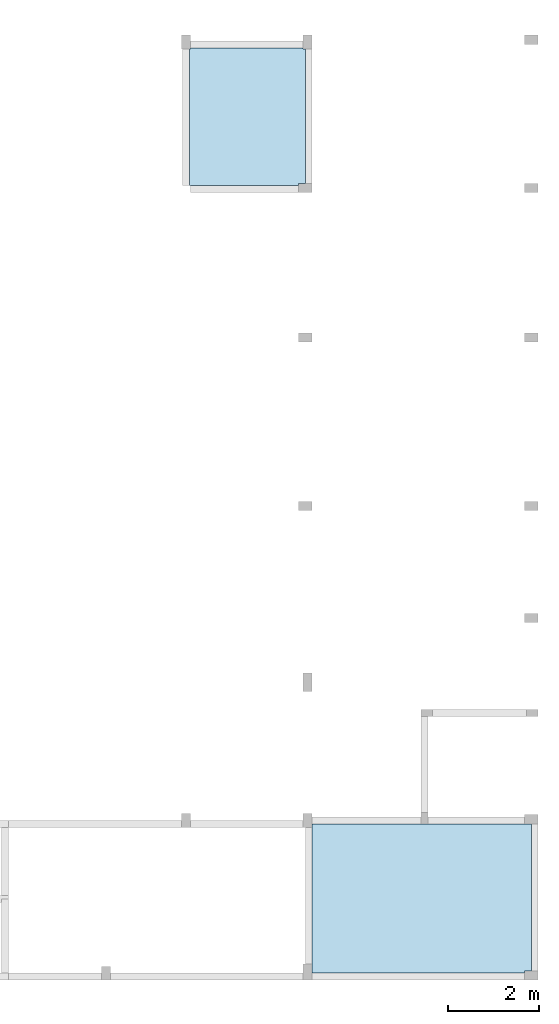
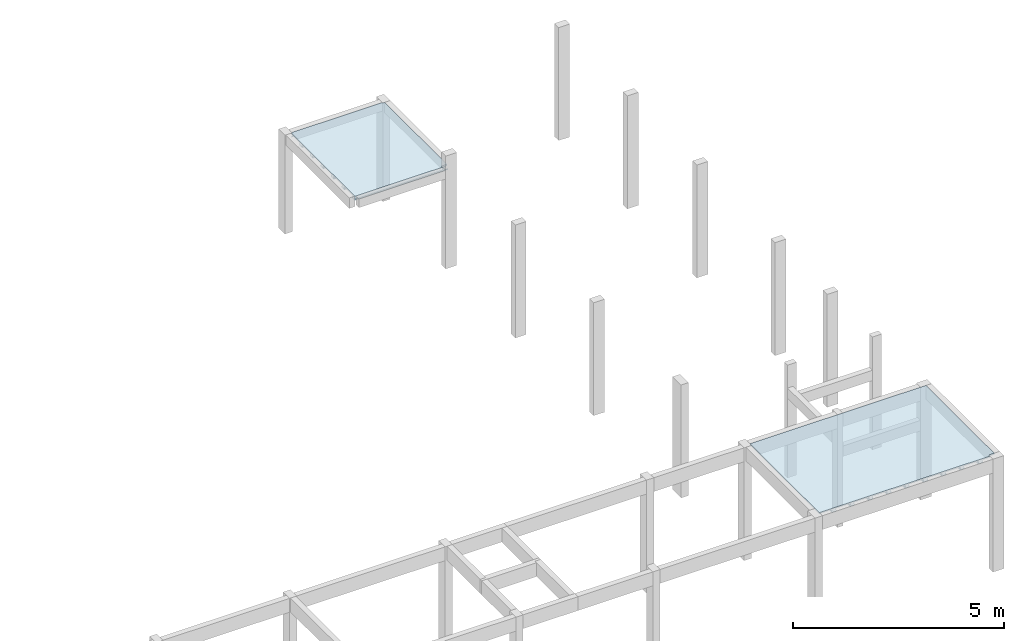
# One storey, part 6 of 6: 2 slabs.
"""IFC4 building model written with IfcOpenShell, lengths in centimetres."""

from ifc_helpers import new_model, si_unit, derived_unit, frame, origin_with_axes, place, context, project, spatial, polyline, outline, extrude, faceted_brep, material, element, save


model = new_model("IFC4")

# Units and contexts
model_context = context("Model", 3, precision=1e-05, world=origin_with_axes(), identifier="Body")
ifc_project = project(units=[si_unit("LENGTHUNIT", "METRE", prefix="CENTI"), si_unit("VOLUMEUNIT", "CUBIC_METRE"), si_unit("AREAUNIT", "SQUARE_METRE"), si_unit("POWERUNIT", "WATT"), si_unit("LUMINOUSFLUXUNIT", "LUMEN"), si_unit("ELECTRICCURRENTUNIT", "AMPERE"), si_unit("PRESSUREUNIT", "PASCAL", prefix="KILO"), si_unit("MASSUNIT", "GRAM", prefix="KILO"), si_unit("PLANEANGLEUNIT", "RADIAN"), derived_unit("VOLUMETRICFLOWRATEUNIT", [(si_unit("LENGTHUNIT", "METRE"), 3), (si_unit("TIMEUNIT", "SECOND"), -1)])], contexts=[model_context])

# Site, building, storey
site_placement = place(None, origin_with_axes())
site = spatial("IfcSite", under=ifc_project, at=site_placement)
building_placement = place(site_placement, frame((0.0, 0.0, -295.0)))
building = spatial("IfcBuilding", under=site, at=building_placement)
placement_1 = place(building_placement, origin_with_axes())
placement_2 = place(placement_1, frame((0.0, 0.0, 101.0), z_axis=(0.0, 0.0, 1.0), x_axis=(1.0, 0.0, 0.0)))
placement_3 = place(placement_2, frame((0.0, 0.0, 204.0), z_axis=(0.0, 0.0, 1.0), x_axis=(1.0, 0.0, 0.0)))
placement_4 = place(placement_3, frame((0.0, 0.0, 292.0), z_axis=(0.0, 0.0, 1.0), x_axis=(1.0, 0.0, 0.0)))
placement_5 = place(placement_4, frame((0.0, 0.0, 302.0), z_axis=(0.0, 0.0, 1.0), x_axis=(1.0, 0.0, 0.0)))
storey_placement = place(placement_5, frame((0.0, 0.0, 326.0), z_axis=(0.0, 0.0, 1.0), x_axis=(1.0, 0.0, 0.0)))
storey = spatial("IfcBuildingStorey", under=building, at=storey_placement, Name="COB CX DAGUA", CompositionType="ELEMENT", Elevation=930.0)

# Slabs
ifc_material = material(Name="Concreto")
slab_1_placement = place(storey_placement, frame((3378.4799981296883, -5283.8175, -41.0), z_axis=(0.0, 0.0, 1.0), x_axis=(1.0, 0.0, 0.0)))
element("IfcSlab", 1, at=slab_1_placement, inside=storey, material=ifc_material, Name="L304", PredefinedType="FLOOR", context=model_context, shape_type="SolidModel", body=[
    extrude(outline(polyline([(112.23, -146.104), (127.25, -146.104), (127.249, 149.034), (122.25, 149.034), (122.25, 151.035), (-124.749, 151.034), (-124.749, 149.034), (-127.25, 149.034), (-127.249, -151.034), (112.229, -151.034), (112.23, -146.104), (112.23, -146.104)])), frame((0.0, 0.2325, -4.0), z_axis=(0.0, 0.0, 1.0), x_axis=(1.0, 0.0, 0.0)), (0.0, 0.0, 1.0), 4.0),
    faceted_brep([(-127.24949812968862, -139.7675, -12.0), (127.24950187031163, -139.7675, -12.0), (112.22950187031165, -149.7675, -12.0), (-127.24949812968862, -149.7675, -12.0), (-127.24949812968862, -149.7675, -4.0), (112.22950187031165, -149.7675, -4.0), (127.24950187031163, -139.7675, -4.0), (-127.24949812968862, -139.7675, -4.0)], [[[0, 1, 2, 3]], [[4, 5, 6, 7]], [[4, 3, 5]], [[3, 2, 5]], [[5, 2, 6]], [[2, 1, 6]], [[6, 1, 7]], [[1, 0, 7]], [[7, 0, 4]], [[0, 3, 4]]]),
    faceted_brep([(-127.24949812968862, -138.2675, -12.0), (127.24950187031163, -138.2675, -12.0), (127.24950187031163, -139.7675, -12.0), (-127.24949812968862, -139.7675, -12.0), (-127.24949812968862, -139.7675, -9.0), (127.24950187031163, -139.7675, -9.0), (127.24950187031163, -138.2675, -9.0), (-127.24949812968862, -138.2675, -9.0)], [[[0, 1, 2, 3]], [[4, 5, 6, 7]], [[4, 3, 5]], [[3, 2, 5]], [[5, 2, 6]], [[2, 1, 6]], [[6, 1, 7]], [[1, 0, 7]], [[7, 0, 4]], [[0, 3, 4]]]),
    faceted_brep([(-127.24949812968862, -149.7675, -12.0), (127.24999812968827, -149.7675, -12.0), (127.24999812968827, -151.2675, -12.0), (-127.24949812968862, -151.2675, -12.0), (-127.24949812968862, -151.2675, -9.0), (127.24999812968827, -151.2675, -9.0), (127.24999812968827, -149.7675, -9.0), (-127.24949812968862, -149.7675, -9.0)], [[[0, 1, 2, 3]], [[4, 5, 6, 7]], [[4, 3, 5]], [[3, 2, 5]], [[5, 2, 6]], [[2, 1, 6]], [[6, 1, 7]], [[1, 0, 7]], [[7, 0, 4]], [[0, 3, 4]]]),
    faceted_brep([(-127.24949812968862, -89.7675, -12.0), (127.24950187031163, -89.7675, -12.0), (127.24950187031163, -99.7675, -12.0), (-127.24949812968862, -99.7675, -12.0), (-127.24949812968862, -99.7675, -4.0), (127.24950187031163, -99.7675, -4.0), (127.24950187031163, -89.7675, -4.0), (-127.24949812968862, -89.7675, -4.0)], [[[0, 1, 2, 3]], [[4, 5, 6, 7]], [[4, 3, 5]], [[3, 2, 5]], [[5, 2, 6]], [[2, 1, 6]], [[6, 1, 7]], [[1, 0, 7]], [[7, 0, 4]], [[0, 3, 4]]]),
    faceted_brep([(-127.24949812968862, -88.2675, -12.0), (127.24950187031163, -88.2675, -12.0), (127.24950187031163, -89.7675, -12.0), (-127.24949812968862, -89.7675, -12.0), (-127.24949812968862, -89.7675, -9.0), (127.24950187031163, -89.7675, -9.0), (127.24950187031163, -88.2675, -9.0), (-127.24949812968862, -88.2675, -9.0)], [[[0, 1, 2, 3]], [[4, 5, 6, 7]], [[4, 3, 5]], [[3, 2, 5]], [[5, 2, 6]], [[2, 1, 6]], [[6, 1, 7]], [[1, 0, 7]], [[7, 0, 4]], [[0, 3, 4]]]),
    faceted_brep([(-127.24949812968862, -99.7675, -12.0), (127.24950187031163, -99.7675, -12.0), (127.24950187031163, -101.2675, -12.0), (-127.24949812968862, -101.2675, -12.0), (-127.24949812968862, -101.2675, -9.0), (127.24950187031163, -101.2675, -9.0), (127.24950187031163, -99.7675, -9.0), (-127.24949812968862, -99.7675, -9.0)], [[[0, 1, 2, 3]], [[4, 5, 6, 7]], [[4, 3, 5]], [[3, 2, 5]], [[5, 2, 6]], [[2, 1, 6]], [[6, 1, 7]], [[1, 0, 7]], [[7, 0, 4]], [[0, 3, 4]]]),
    faceted_brep([(-127.24949812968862, -39.7675, -12.0), (127.24950187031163, -39.7675, -12.0), (127.24950187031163, -49.7675, -12.0), (-127.24949812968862, -49.7675, -12.0), (-127.24949812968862, -49.7675, -4.0), (127.24950187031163, -49.7675, -4.0), (127.24950187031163, -39.7675, -4.0), (-127.24949812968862, -39.7675, -4.0)], [[[0, 1, 2, 3]], [[4, 5, 6, 7]], [[4, 3, 5]], [[3, 2, 5]], [[5, 2, 6]], [[2, 1, 6]], [[6, 1, 7]], [[1, 0, 7]], [[7, 0, 4]], [[0, 3, 4]]]),
    faceted_brep([(-127.24949812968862, -38.2675, -12.0), (127.24950187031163, -38.2675, -12.0), (127.24950187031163, -39.7675, -12.0), (-127.24949812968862, -39.7675, -12.0), (-127.24949812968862, -39.7675, -9.0), (127.24950187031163, -39.7675, -9.0), (127.24950187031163, -38.2675, -9.0), (-127.24949812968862, -38.2675, -9.0)], [[[0, 1, 2, 3]], [[4, 5, 6, 7]], [[4, 3, 5]], [[3, 2, 5]], [[5, 2, 6]], [[2, 1, 6]], [[6, 1, 7]], [[1, 0, 7]], [[7, 0, 4]], [[0, 3, 4]]]),
    faceted_brep([(-127.24949812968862, -49.7675, -12.0), (127.24950187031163, -49.7675, -12.0), (127.24950187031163, -51.2675, -12.0), (-127.24949812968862, -51.2675, -12.0), (-127.24949812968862, -51.2675, -9.0), (127.24950187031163, -51.2675, -9.0), (127.24950187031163, -49.7675, -9.0), (-127.24949812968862, -49.7675, -9.0)], [[[0, 1, 2, 3]], [[4, 5, 6, 7]], [[4, 3, 5]], [[3, 2, 5]], [[5, 2, 6]], [[2, 1, 6]], [[6, 1, 7]], [[1, 0, 7]], [[7, 0, 4]], [[0, 3, 4]]]),
    faceted_brep([(-127.24949812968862, 10.2325, -12.0), (127.24950187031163, 10.2325, -12.0), (127.24950187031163, 0.2325, -12.0), (-127.24949812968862, 0.2325, -12.0), (-127.24949812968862, 0.2325, -4.0), (127.24950187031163, 0.2325, -4.0), (127.24950187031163, 10.2325, -4.0), (-127.24949812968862, 10.2325, -4.0)], [[[0, 1, 2, 3]], [[4, 5, 6, 7]], [[4, 3, 5]], [[3, 2, 5]], [[5, 2, 6]], [[2, 1, 6]], [[6, 1, 7]], [[1, 0, 7]], [[7, 0, 4]], [[0, 3, 4]]]),
    faceted_brep([(-127.24949812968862, 11.7325, -12.0), (127.24950187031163, 11.7325, -12.0), (127.24950187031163, 10.2325, -12.0), (-127.24949812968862, 10.2325, -12.0), (-127.24949812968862, 10.2325, -9.0), (127.24950187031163, 10.2325, -9.0), (127.24950187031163, 11.7325, -9.0), (-127.24949812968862, 11.7325, -9.0)], [[[0, 1, 2, 3]], [[4, 5, 6, 7]], [[4, 3, 5]], [[3, 2, 5]], [[5, 2, 6]], [[2, 1, 6]], [[6, 1, 7]], [[1, 0, 7]], [[7, 0, 4]], [[0, 3, 4]]]),
    faceted_brep([(-127.24949812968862, 0.2325, -12.0), (127.24950187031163, 0.2325, -12.0), (127.24950187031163, -1.2675, -12.0), (-127.24949812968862, -1.2675, -12.0), (-127.24949812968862, -1.2675, -9.0), (127.24950187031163, -1.2675, -9.0), (127.24950187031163, 0.2325, -9.0), (-127.24949812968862, 0.2325, -9.0)], [[[0, 1, 2, 3]], [[4, 5, 6, 7]], [[4, 3, 5]], [[3, 2, 5]], [[5, 2, 6]], [[2, 1, 6]], [[6, 1, 7]], [[1, 0, 7]], [[7, 0, 4]], [[0, 3, 4]]]),
    faceted_brep([(-127.24949812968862, 60.2325, -12.0), (127.24950187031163, 60.2325, -12.0), (127.24950187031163, 50.2325, -12.0), (-127.24949812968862, 50.2325, -12.0), (-127.24949812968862, 50.2325, -4.0), (127.24950187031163, 50.2325, -4.0), (127.24950187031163, 60.2325, -4.0), (-127.24949812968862, 60.2325, -4.0)], [[[0, 1, 2, 3]], [[4, 5, 6, 7]], [[4, 3, 5]], [[3, 2, 5]], [[5, 2, 6]], [[2, 1, 6]], [[6, 1, 7]], [[1, 0, 7]], [[7, 0, 4]], [[0, 3, 4]]]),
    faceted_brep([(-127.24949812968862, 61.7325, -12.0), (127.24950187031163, 61.7325, -12.0), (127.24950187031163, 60.2325, -12.0), (-127.24949812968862, 60.2325, -12.0), (-127.24949812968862, 60.2325, -9.0), (127.24950187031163, 60.2325, -9.0), (127.24950187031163, 61.7325, -9.0), (-127.24949812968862, 61.7325, -9.0)], [[[0, 1, 2, 3]], [[4, 5, 6, 7]], [[4, 3, 5]], [[3, 2, 5]], [[5, 2, 6]], [[2, 1, 6]], [[6, 1, 7]], [[1, 0, 7]], [[7, 0, 4]], [[0, 3, 4]]]),
    faceted_brep([(-127.24949812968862, 50.2325, -12.0), (127.24950187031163, 50.2325, -12.0), (127.24950187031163, 48.7325, -12.0), (-127.24949812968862, 48.7325, -12.0), (-127.24949812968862, 48.7325, -9.0), (127.24950187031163, 48.7325, -9.0), (127.24950187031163, 50.2325, -9.0), (-127.24949812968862, 50.2325, -9.0)], [[[0, 1, 2, 3]], [[4, 5, 6, 7]], [[4, 3, 5]], [[3, 2, 5]], [[5, 2, 6]], [[2, 1, 6]], [[6, 1, 7]], [[1, 0, 7]], [[7, 0, 4]], [[0, 3, 4]]]),
    faceted_brep([(-127.24949812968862, 110.2325, -12.0), (127.24950187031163, 110.2325, -12.0), (127.24950187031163, 100.2325, -12.0), (-127.24949812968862, 100.2325, -12.0), (-127.24949812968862, 100.2325, -4.0), (127.24950187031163, 100.2325, -4.0), (127.24950187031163, 110.2325, -4.0), (-127.24949812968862, 110.2325, -4.0)], [[[0, 1, 2, 3]], [[4, 5, 6, 7]], [[4, 3, 5]], [[3, 2, 5]], [[5, 2, 6]], [[2, 1, 6]], [[6, 1, 7]], [[1, 0, 7]], [[7, 0, 4]], [[0, 3, 4]]]),
    faceted_brep([(-127.24949812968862, 111.7325, -12.0), (127.24950187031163, 111.7325, -12.0), (127.24950187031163, 110.2325, -12.0), (-127.24949812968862, 110.2325, -12.0), (-127.24949812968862, 110.2325, -9.0), (127.24950187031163, 110.2325, -9.0), (127.24950187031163, 111.7325, -9.0), (-127.24949812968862, 111.7325, -9.0)], [[[0, 1, 2, 3]], [[4, 5, 6, 7]], [[4, 3, 5]], [[3, 2, 5]], [[5, 2, 6]], [[2, 1, 6]], [[6, 1, 7]], [[1, 0, 7]], [[7, 0, 4]], [[0, 3, 4]]]),
    faceted_brep([(-127.24949812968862, 100.2325, -12.0), (127.24950187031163, 100.2325, -12.0), (127.24950187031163, 98.7325, -12.0), (-127.24949812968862, 98.7325, -12.0), (-127.24949812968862, 98.7325, -9.0), (127.24950187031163, 98.7325, -9.0), (127.24950187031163, 100.2325, -9.0), (-127.24949812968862, 100.2325, -9.0)], [[[0, 1, 2, 3]], [[4, 5, 6, 7]], [[4, 3, 5]], [[3, 2, 5]], [[5, 2, 6]], [[2, 1, 6]], [[6, 1, 7]], [[1, 0, 7]], [[7, 0, 4]], [[0, 3, 4]]]),
    faceted_brep([(-124.74899812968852, 151.267, -12.0), (122.25000187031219, 151.267, -12.0), (122.25000187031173, 150.2325, -12.0), (-124.74899812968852, 150.2325, -12.0), (-124.74899812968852, 150.2325, -4.0), (122.25000187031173, 150.2325, -4.0), (122.25000187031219, 151.267, -4.0), (-124.74899812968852, 151.267, -4.0)], [[[0, 1, 2, 3]], [[4, 5, 6, 7]], [[4, 3, 5]], [[3, 2, 5]], [[5, 2, 6]], [[2, 1, 6]], [[6, 1, 7]], [[1, 0, 7]], [[7, 0, 4]], [[0, 3, 4]]]),
    faceted_brep([(-124.74899812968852, 150.2325, -12.0), (122.25000187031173, 150.2325, -12.0), (127.24950187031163, 148.7325, -12.0), (-127.24949812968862, 148.7325, -12.0), (-127.24949812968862, 148.7325, -9.0), (127.24950187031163, 148.7325, -9.0), (122.25000187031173, 150.2325, -9.0), (-124.74899812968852, 150.2325, -9.0)], [[[0, 1, 2, 3]], [[4, 5, 6, 7]], [[4, 3, 5]], [[3, 2, 5]], [[5, 2, 6]], [[2, 1, 6]], [[6, 1, 7]], [[1, 0, 7]], [[7, 0, 4]], [[0, 3, 4]]]),
])
slab_2_placement = place(storey_placement, frame((3761.245, -7000.2995, 0.0), z_axis=(0.0, 0.0, 1.0), x_axis=(1.0, 0.0, 0.0)))
element("IfcSlab", 2, at=slab_2_placement, inside=storey, material=ifc_material, Name="L317", PredefinedType="FLOOR", context=model_context, shape_type="SolidModel", body=[
    extrude(outline(polyline([(225.515, -159.01), (240.515, -159.01), (240.514, 164.01), (-240.515, 164.01), (-240.514, -164.009), (225.514, -164.009), (225.515, -159.01), (225.515, -159.01)])), frame((0.0, -0.0005, -4.0), z_axis=(0.0, 0.0, 1.0), x_axis=(1.0, 0.0, 0.0)), (0.0, 0.0, 1.0), 4.0),
    faceted_brep([(-5.0, -164.0095, -12.0), (-5.0, 164.0095, -12.0), (5.0, 164.0095, -12.0), (5.0, -164.0095, -12.0), (5.0, -164.0095, -4.0), (5.0, 164.0095, -4.0), (-5.0, 164.0095, -4.0), (-5.0, -164.0095, -4.0)], [[[0, 1, 2, 3]], [[4, 5, 6, 7]], [[4, 3, 5]], [[3, 2, 5]], [[5, 2, 6]], [[2, 1, 6]], [[6, 1, 7]], [[1, 0, 7]], [[7, 0, 4]], [[0, 3, 4]]]),
    faceted_brep([(-6.5, -164.0095, -12.0), (-6.5, 164.0095, -12.0), (-5.0, 164.0095, -12.0), (-5.0, -164.0095, -12.0), (-5.0, -164.0095, -9.0), (-5.0, 164.0095, -9.0), (-6.5, 164.0095, -9.0), (-6.5, -164.0095, -9.0)], [[[0, 1, 2, 3]], [[4, 5, 6, 7]], [[4, 3, 5]], [[3, 2, 5]], [[5, 2, 6]], [[2, 1, 6]], [[6, 1, 7]], [[1, 0, 7]], [[7, 0, 4]], [[0, 3, 4]]]),
    faceted_brep([(5.0, -164.0095, -12.0), (5.0, 164.0095, -12.0), (6.5, 164.0095, -12.0), (6.5, -164.0095, -12.0), (6.5, -164.0095, -9.0), (6.5, 164.0095, -9.0), (5.0, 164.0095, -9.0), (5.0, -164.0095, -9.0)], [[[0, 1, 2, 3]], [[4, 5, 6, 7]], [[4, 3, 5]], [[3, 2, 5]], [[5, 2, 6]], [[2, 1, 6]], [[6, 1, 7]], [[1, 0, 7]], [[7, 0, 4]], [[0, 3, 4]]]),
    faceted_brep([(-55.0, -164.0095, -12.0), (-55.0, 164.0095, -12.0), (-45.0, 164.0095, -12.0), (-45.0, -164.0095, -12.0), (-45.0, -164.0095, -4.0), (-45.0, 164.0095, -4.0), (-55.0, 164.0095, -4.0), (-55.0, -164.0095, -4.0)], [[[0, 1, 2, 3]], [[4, 5, 6, 7]], [[4, 3, 5]], [[3, 2, 5]], [[5, 2, 6]], [[2, 1, 6]], [[6, 1, 7]], [[1, 0, 7]], [[7, 0, 4]], [[0, 3, 4]]]),
    faceted_brep([(-56.5, -164.0095, -12.0), (-56.5, 164.0095, -12.0), (-55.0, 164.0095, -12.0), (-55.0, -164.0095, -12.0), (-55.0, -164.0095, -9.0), (-55.0, 164.0095, -9.0), (-56.5, 164.0095, -9.0), (-56.5, -164.0095, -9.0)], [[[0, 1, 2, 3]], [[4, 5, 6, 7]], [[4, 3, 5]], [[3, 2, 5]], [[5, 2, 6]], [[2, 1, 6]], [[6, 1, 7]], [[1, 0, 7]], [[7, 0, 4]], [[0, 3, 4]]]),
    faceted_brep([(-45.0, -164.0095, -12.0), (-45.0, 164.0095, -12.0), (-43.5, 164.0095, -12.0), (-43.5, -164.0095, -12.0), (-43.5, -164.0095, -9.0), (-43.5, 164.0095, -9.0), (-45.0, 164.0095, -9.0), (-45.0, -164.0095, -9.0)], [[[0, 1, 2, 3]], [[4, 5, 6, 7]], [[4, 3, 5]], [[3, 2, 5]], [[5, 2, 6]], [[2, 1, 6]], [[6, 1, 7]], [[1, 0, 7]], [[7, 0, 4]], [[0, 3, 4]]]),
    faceted_brep([(-105.0, -164.0095, -12.0), (-105.0, 164.0095, -12.0), (-95.0, 164.0095, -12.0), (-95.0, -164.0095, -12.0), (-95.0, -164.0095, -4.0), (-95.0, 164.0095, -4.0), (-105.0, 164.0095, -4.0), (-105.0, -164.0095, -4.0)], [[[0, 1, 2, 3]], [[4, 5, 6, 7]], [[4, 3, 5]], [[3, 2, 5]], [[5, 2, 6]], [[2, 1, 6]], [[6, 1, 7]], [[1, 0, 7]], [[7, 0, 4]], [[0, 3, 4]]]),
    faceted_brep([(-106.5, -164.0095, -12.0), (-106.5, 164.0095, -12.0), (-105.0, 164.0095, -12.0), (-105.0, -164.0095, -12.0), (-105.0, -164.0095, -9.0), (-105.0, 164.0095, -9.0), (-106.5, 164.0095, -9.0), (-106.5, -164.0095, -9.0)], [[[0, 1, 2, 3]], [[4, 5, 6, 7]], [[4, 3, 5]], [[3, 2, 5]], [[5, 2, 6]], [[2, 1, 6]], [[6, 1, 7]], [[1, 0, 7]], [[7, 0, 4]], [[0, 3, 4]]]),
    faceted_brep([(-95.0, -164.0095, -12.0), (-95.0, 164.0095, -12.0), (-93.5, 164.0095, -12.0), (-93.5, -164.0095, -12.0), (-93.5, -164.0095, -9.0), (-93.5, 164.0095, -9.0), (-95.0, 164.0095, -9.0), (-95.0, -164.0095, -9.0)], [[[0, 1, 2, 3]], [[4, 5, 6, 7]], [[4, 3, 5]], [[3, 2, 5]], [[5, 2, 6]], [[2, 1, 6]], [[6, 1, 7]], [[1, 0, 7]], [[7, 0, 4]], [[0, 3, 4]]]),
    faceted_brep([(-155.0, -164.0095, -12.0), (-155.0, 164.0095, -12.0), (-145.0, 164.0095, -12.0), (-145.0, -164.0095, -12.0), (-145.0, -164.0095, -4.0), (-145.0, 164.0095, -4.0), (-155.0, 164.0095, -4.0), (-155.0, -164.0095, -4.0)], [[[0, 1, 2, 3]], [[4, 5, 6, 7]], [[4, 3, 5]], [[3, 2, 5]], [[5, 2, 6]], [[2, 1, 6]], [[6, 1, 7]], [[1, 0, 7]], [[7, 0, 4]], [[0, 3, 4]]]),
    faceted_brep([(-156.5, -164.0095, -12.0), (-156.5, 164.0095, -12.0), (-155.0, 164.0095, -12.0), (-155.0, -164.0095, -12.0), (-155.0, -164.0095, -9.0), (-155.0, 164.0095, -9.0), (-156.5, 164.0095, -9.0), (-156.5, -164.0095, -9.0)], [[[0, 1, 2, 3]], [[4, 5, 6, 7]], [[4, 3, 5]], [[3, 2, 5]], [[5, 2, 6]], [[2, 1, 6]], [[6, 1, 7]], [[1, 0, 7]], [[7, 0, 4]], [[0, 3, 4]]]),
    faceted_brep([(-145.0, -164.0095, -12.0), (-145.0, 164.0095, -12.0), (-143.5, 164.0095, -12.0), (-143.5, -164.0095, -12.0), (-143.5, -164.0095, -9.0), (-143.5, 164.0095, -9.0), (-145.0, 164.0095, -9.0), (-145.0, -164.0095, -9.0)], [[[0, 1, 2, 3]], [[4, 5, 6, 7]], [[4, 3, 5]], [[3, 2, 5]], [[5, 2, 6]], [[2, 1, 6]], [[6, 1, 7]], [[1, 0, 7]], [[7, 0, 4]], [[0, 3, 4]]]),
    faceted_brep([(-205.0, -164.0095, -12.0), (-205.0, 164.0095, -12.0), (-195.0, 164.0095, -12.0), (-195.0, -164.0095, -12.0), (-195.0, -164.0095, -4.0), (-195.0, 164.0095, -4.0), (-205.0, 164.0095, -4.0), (-205.0, -164.0095, -4.0)], [[[0, 1, 2, 3]], [[4, 5, 6, 7]], [[4, 3, 5]], [[3, 2, 5]], [[5, 2, 6]], [[2, 1, 6]], [[6, 1, 7]], [[1, 0, 7]], [[7, 0, 4]], [[0, 3, 4]]]),
    faceted_brep([(-206.5, -164.0095, -12.0), (-206.5, 164.0095, -12.0), (-205.0, 164.0095, -12.0), (-205.0, -164.0095, -12.0), (-205.0, -164.0095, -9.0), (-205.0, 164.0095, -9.0), (-206.5, 164.0095, -9.0), (-206.5, -164.0095, -9.0)], [[[0, 1, 2, 3]], [[4, 5, 6, 7]], [[4, 3, 5]], [[3, 2, 5]], [[5, 2, 6]], [[2, 1, 6]], [[6, 1, 7]], [[1, 0, 7]], [[7, 0, 4]], [[0, 3, 4]]]),
    faceted_brep([(-195.0, -164.0095, -12.0), (-195.0, 164.0095, -12.0), (-193.5, 164.0095, -12.0), (-193.5, -164.0095, -12.0), (-193.5, -164.0095, -9.0), (-193.5, 164.0095, -9.0), (-195.0, 164.0095, -9.0), (-195.0, -164.0095, -9.0)], [[[0, 1, 2, 3]], [[4, 5, 6, 7]], [[4, 3, 5]], [[3, 2, 5]], [[5, 2, 6]], [[2, 1, 6]], [[6, 1, 7]], [[1, 0, 7]], [[7, 0, 4]], [[0, 3, 4]]]),
    faceted_brep([(45.0, -164.0095, -12.0), (45.0, 164.0095, -12.0), (55.0, 164.0095, -12.0), (55.0, -164.0095, -12.0), (55.0, -164.0095, -4.0), (55.0, 164.0095, -4.0), (45.0, 164.0095, -4.0), (45.0, -164.0095, -4.0)], [[[0, 1, 2, 3]], [[4, 5, 6, 7]], [[4, 3, 5]], [[3, 2, 5]], [[5, 2, 6]], [[2, 1, 6]], [[6, 1, 7]], [[1, 0, 7]], [[7, 0, 4]], [[0, 3, 4]]]),
    faceted_brep([(43.5, -164.0095, -12.0), (43.5, 164.0095, -12.0), (45.0, 164.0095, -12.0), (45.0, -164.0095, -12.0), (45.0, -164.0095, -9.0), (45.0, 164.0095, -9.0), (43.5, 164.0095, -9.0), (43.5, -164.0095, -9.0)], [[[0, 1, 2, 3]], [[4, 5, 6, 7]], [[4, 3, 5]], [[3, 2, 5]], [[5, 2, 6]], [[2, 1, 6]], [[6, 1, 7]], [[1, 0, 7]], [[7, 0, 4]], [[0, 3, 4]]]),
    faceted_brep([(55.0, -164.0095, -12.0), (55.0, 164.0095, -12.0), (56.5, 164.0095, -12.0), (56.5, -164.0095, -12.0), (56.5, -164.0095, -9.0), (56.5, 164.0095, -9.0), (55.0, 164.0095, -9.0), (55.0, -164.0095, -9.0)], [[[0, 1, 2, 3]], [[4, 5, 6, 7]], [[4, 3, 5]], [[3, 2, 5]], [[5, 2, 6]], [[2, 1, 6]], [[6, 1, 7]], [[1, 0, 7]], [[7, 0, 4]], [[0, 3, 4]]]),
    faceted_brep([(95.0, -164.0095, -12.0), (95.0, 164.0095, -12.0), (105.0, 164.0095, -12.0), (105.0, -164.0095, -12.0), (105.0, -164.0095, -4.0), (105.0, 164.0095, -4.0), (95.0, 164.0095, -4.0), (95.0, -164.0095, -4.0)], [[[0, 1, 2, 3]], [[4, 5, 6, 7]], [[4, 3, 5]], [[3, 2, 5]], [[5, 2, 6]], [[2, 1, 6]], [[6, 1, 7]], [[1, 0, 7]], [[7, 0, 4]], [[0, 3, 4]]]),
    faceted_brep([(93.5, -164.0095, -12.0), (93.5, 164.0095, -12.0), (95.0, 164.0095, -12.0), (95.0, -164.0095, -12.0), (95.0, -164.0095, -9.0), (95.0, 164.0095, -9.0), (93.5, 164.0095, -9.0), (93.5, -164.0095, -9.0)], [[[0, 1, 2, 3]], [[4, 5, 6, 7]], [[4, 3, 5]], [[3, 2, 5]], [[5, 2, 6]], [[2, 1, 6]], [[6, 1, 7]], [[1, 0, 7]], [[7, 0, 4]], [[0, 3, 4]]]),
    faceted_brep([(105.0, -164.0095, -12.0), (105.0, 164.0095, -12.0), (106.5, 164.0095, -12.0), (106.5, -164.0095, -12.0), (106.5, -164.0095, -9.0), (106.5, 164.0095, -9.0), (105.0, 164.0095, -9.0), (105.0, -164.0095, -9.0)], [[[0, 1, 2, 3]], [[4, 5, 6, 7]], [[4, 3, 5]], [[3, 2, 5]], [[5, 2, 6]], [[2, 1, 6]], [[6, 1, 7]], [[1, 0, 7]], [[7, 0, 4]], [[0, 3, 4]]]),
    faceted_brep([(145.0, -164.0095, -12.0), (145.0, 164.0095, -12.0), (155.0, 164.0095, -12.0), (155.0, -164.0095, -12.0), (155.0, -164.0095, -4.0), (155.0, 164.0095, -4.0), (145.0, 164.0095, -4.0), (145.0, -164.0095, -4.0)], [[[0, 1, 2, 3]], [[4, 5, 6, 7]], [[4, 3, 5]], [[3, 2, 5]], [[5, 2, 6]], [[2, 1, 6]], [[6, 1, 7]], [[1, 0, 7]], [[7, 0, 4]], [[0, 3, 4]]]),
    faceted_brep([(143.5, -164.0095, -12.0), (143.5, 164.0095, -12.0), (145.0, 164.0095, -12.0), (145.0, -164.0095, -12.0), (145.0, -164.0095, -9.0), (145.0, 164.0095, -9.0), (143.5, 164.0095, -9.0), (143.5, -164.0095, -9.0)], [[[0, 1, 2, 3]], [[4, 5, 6, 7]], [[4, 3, 5]], [[3, 2, 5]], [[5, 2, 6]], [[2, 1, 6]], [[6, 1, 7]], [[1, 0, 7]], [[7, 0, 4]], [[0, 3, 4]]]),
    faceted_brep([(155.0, -164.0095, -12.0), (155.0, 164.0095, -12.0), (156.5, 164.0095, -12.0), (156.5, -164.0095, -12.0), (156.5, -164.0095, -9.0), (156.5, 164.0095, -9.0), (155.0, 164.0095, -9.0), (155.0, -164.0095, -9.0)], [[[0, 1, 2, 3]], [[4, 5, 6, 7]], [[4, 3, 5]], [[3, 2, 5]], [[5, 2, 6]], [[2, 1, 6]], [[6, 1, 7]], [[1, 0, 7]], [[7, 0, 4]], [[0, 3, 4]]]),
    faceted_brep([(195.0, -164.0095, -12.0), (195.0, 164.0095, -12.0), (205.0, 164.0095, -12.0), (205.0, -164.0095, -12.0), (205.0, -164.0095, -4.0), (205.0, 164.0095, -4.0), (195.0, 164.0095, -4.0), (195.0, -164.0095, -4.0)], [[[0, 1, 2, 3]], [[4, 5, 6, 7]], [[4, 3, 5]], [[3, 2, 5]], [[5, 2, 6]], [[2, 1, 6]], [[6, 1, 7]], [[1, 0, 7]], [[7, 0, 4]], [[0, 3, 4]]]),
    faceted_brep([(193.5, -164.0095, -12.0), (193.5, 164.0095, -12.0), (195.0, 164.0095, -12.0), (195.0, -164.0095, -12.0), (195.0, -164.0095, -9.0), (195.0, 164.0095, -9.0), (193.5, 164.0095, -9.0), (193.5, -164.0095, -9.0)], [[[0, 1, 2, 3]], [[4, 5, 6, 7]], [[4, 3, 5]], [[3, 2, 5]], [[5, 2, 6]], [[2, 1, 6]], [[6, 1, 7]], [[1, 0, 7]], [[7, 0, 4]], [[0, 3, 4]]]),
    faceted_brep([(205.0, -164.0095, -12.0), (205.0, 164.0095, -12.0), (206.5, 164.0095, -12.0), (206.5, -164.0095, -12.0), (206.5, -164.0095, -9.0), (206.5, 164.0095, -9.0), (205.0, 164.0095, -9.0), (205.0, -164.0095, -9.0)], [[[0, 1, 2, 3]], [[4, 5, 6, 7]], [[4, 3, 5]], [[3, 2, 5]], [[5, 2, 6]], [[2, 1, 6]], [[6, 1, 7]], [[1, 0, 7]], [[7, 0, 4]], [[0, 3, 4]]]),
])

save(model, "model.ifc")
